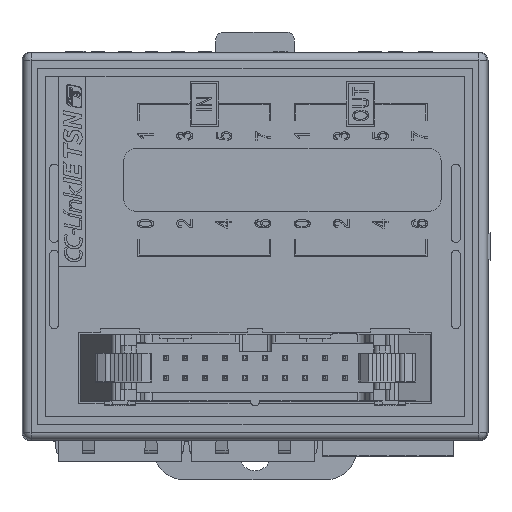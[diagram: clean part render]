
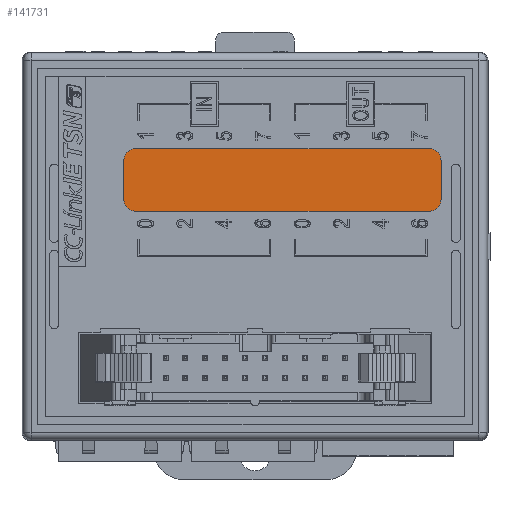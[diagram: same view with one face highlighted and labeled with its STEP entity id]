
A CAD part, top view. The second image highlights one B-rep face of the part: STEP entity #141731.
In plain terms, the highlighted planar face has unit normal (0, 0, 1).
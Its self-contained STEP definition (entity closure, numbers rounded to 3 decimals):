
#40244=DIRECTION('',(-1.,0.,0.));
#40245=VECTOR('',#40244,37.5);
#40246=CARTESIAN_POINT('',(22.25,12.5,30.9));
#40247=LINE('',#40246,#40245);
#40248=CARTESIAN_POINT('',(22.25,11.,30.9));
#40249=DIRECTION('',(0.,0.,1.));
#40250=DIRECTION('',(1.,0.,0.));
#40251=AXIS2_PLACEMENT_3D('',#40248,#40249,#40250);
#40253=DIRECTION('',(0.,1.,0.));
#40254=VECTOR('',#40253,5.);
#40255=CARTESIAN_POINT('',(23.75,6.,30.9));
#40256=LINE('',#40255,#40254);
#40257=CARTESIAN_POINT('',(22.25,6.,30.9));
#40258=DIRECTION('',(0.,0.,1.));
#40259=DIRECTION('',(0.,-1.,0.));
#40260=AXIS2_PLACEMENT_3D('',#40257,#40258,#40259);
#40262=DIRECTION('',(1.,0.,0.));
#40263=VECTOR('',#40262,37.5);
#40264=CARTESIAN_POINT('',(-15.25,4.5,30.9));
#40265=LINE('',#40264,#40263);
#40266=CARTESIAN_POINT('',(-15.25,6.,30.9));
#40267=DIRECTION('',(0.,0.,1.));
#40268=DIRECTION('',(-1.,0.,0.));
#40269=AXIS2_PLACEMENT_3D('',#40266,#40267,#40268);
#40271=DIRECTION('',(0.,-1.,0.));
#40272=VECTOR('',#40271,5.);
#40273=CARTESIAN_POINT('',(-16.75,11.,30.9));
#40274=LINE('',#40273,#40272);
#40275=CARTESIAN_POINT('',(-15.25,11.,30.9));
#40276=DIRECTION('',(0.,0.,1.));
#40277=DIRECTION('',(0.,1.,0.));
#40278=AXIS2_PLACEMENT_3D('',#40275,#40276,#40277);
#54311=CARTESIAN_POINT('',(-15.25,12.5,30.9));
#54312=VERTEX_POINT('',#54311);
#54313=CARTESIAN_POINT('',(22.25,12.5,30.9));
#54314=VERTEX_POINT('',#54313);
#54315=CARTESIAN_POINT('',(23.75,11.,30.9));
#54316=VERTEX_POINT('',#54315);
#54317=CARTESIAN_POINT('',(23.75,6.,30.9));
#54318=VERTEX_POINT('',#54317);
#54319=CARTESIAN_POINT('',(22.25,4.5,30.9));
#54320=VERTEX_POINT('',#54319);
#54321=CARTESIAN_POINT('',(-15.25,4.5,30.9));
#54322=VERTEX_POINT('',#54321);
#54323=CARTESIAN_POINT('',(-16.75,6.,30.9));
#54324=VERTEX_POINT('',#54323);
#54325=CARTESIAN_POINT('',(-16.75,11.,30.9));
#54326=VERTEX_POINT('',#54325);
#141716=CARTESIAN_POINT('',(3.5,8.5,30.9));
#141717=DIRECTION('',(0.,0.,1.));
#141718=DIRECTION('',(1.,0.,0.));
#141719=AXIS2_PLACEMENT_3D('',#141716,#141717,#141718);
#141720=PLANE('',#141719);
#141721=ORIENTED_EDGE('',*,*,#141556,.F.);
#141722=ORIENTED_EDGE('',*,*,#141578,.F.);
#141723=ORIENTED_EDGE('',*,*,#141599,.F.);
#141724=ORIENTED_EDGE('',*,*,#141620,.F.);
#141725=ORIENTED_EDGE('',*,*,#141641,.F.);
#141726=ORIENTED_EDGE('',*,*,#141662,.F.);
#141727=ORIENTED_EDGE('',*,*,#141683,.F.);
#141728=ORIENTED_EDGE('',*,*,#141703,.F.);
#141729=EDGE_LOOP('',(#141721,#141722,#141723,#141724,#141725,#141726,#141727,
#141728));
#141730=FACE_OUTER_BOUND('',#141729,.F.);
#141731=ADVANCED_FACE('',(#141730),#141720,.T.);
#40252=CIRCLE('',#40251,1.5);
#40261=CIRCLE('',#40260,1.5);
#40270=CIRCLE('',#40269,1.5);
#40279=CIRCLE('',#40278,1.5);
#141556=EDGE_CURVE('',#54314,#54312,#40247,.T.);
#141578=EDGE_CURVE('',#54316,#54314,#40252,.T.);
#141599=EDGE_CURVE('',#54318,#54316,#40256,.T.);
#141620=EDGE_CURVE('',#54320,#54318,#40261,.T.);
#141641=EDGE_CURVE('',#54322,#54320,#40265,.T.);
#141662=EDGE_CURVE('',#54324,#54322,#40270,.T.);
#141683=EDGE_CURVE('',#54326,#54324,#40274,.T.);
#141703=EDGE_CURVE('',#54312,#54326,#40279,.T.);
